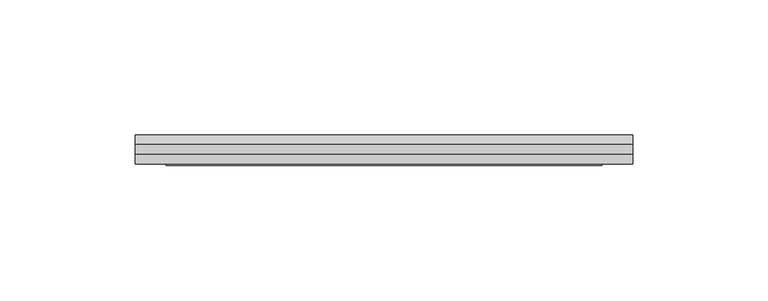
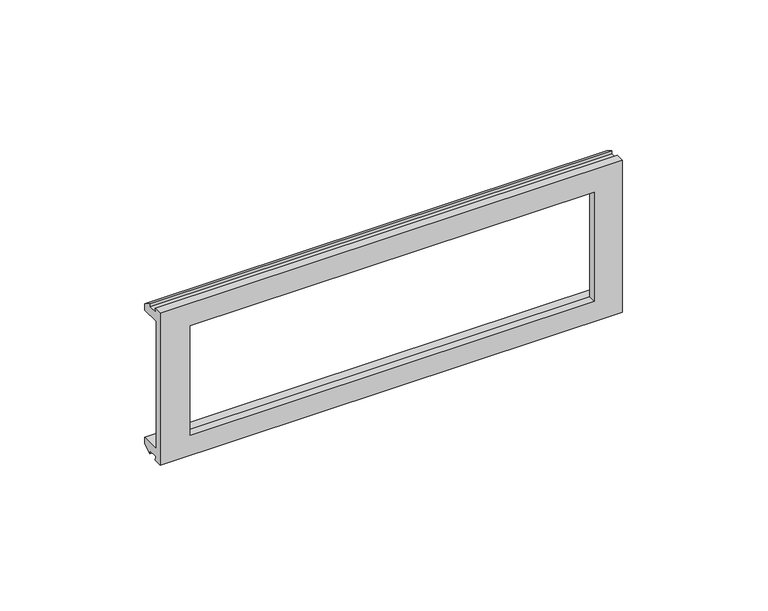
"""IFC4 building model written with IfcOpenShell, lengths in millimetres: proxy geometry."""

from ifc_helpers import new_model, si_unit, frame, origin, place, context, project, spatial, polyline, circle_curve, source, transform, mapped, element, save
from ifc_brep_helpers import plane_surface, cylinder_surface, revolved_surface, advanced_brep


def electrical_fixtures_77dadccb(model_context):
    return source(origin(), model_context, "Body", "AdvancedBrep", [
        advanced_brep(
        [(92.0, -3.5, 32.0), (92.0, -3.5, -32.0), (92.0, 0.0, -32.0), (92.0, -0.1920215, -30.3542211), (92.0, 3.8395952, -30.3542211), (92.0, 3.8395952, -31.5769261), (92.0, 7.1871999, -29.457495), (92.0, 7.1871999, -26.8043792), (92.0, -0.5712834, -26.8043792), (92.0, -0.5712834, 26.8043792), (92.0, 7.1871999, 26.8043792), (92.0, 7.1871999, 29.457495), (92.0, 3.8395952, 31.5769261), (92.0, 3.8395952, 30.3542211), (92.0, -0.1920215, 30.3542211), (92.0, 0.0, 32.0), (-92.0, -3.5, 32.0), (-92.0, 0.0, 32.0), (-92.0, -0.1920215, 30.3542211), (-92.0, 3.8395952, 30.3542211), (-92.0, 3.8395952, 31.5769261), (-92.0, 7.1871999, 29.457495), (-92.0, 7.1871999, 26.8043792), (-92.0, -0.5712834, 26.8043792), (-92.0, -0.5712834, -26.8043792), (-92.0, 7.1871999, -26.8043792), (-92.0, 7.1871999, -29.457495), (-92.0, 3.8395952, -31.5769261), (-92.0, 3.8395952, -30.3542211), (-92.0, -0.1920215, -30.3542211), (-92.0, 0.0, -32.0), (-92.0, -3.5, -32.0), (80.5, -4.1351573, 23.0), (80.5, -4.1351573, -23.0), (-80.5, -4.1351573, -23.0), (-80.5, -4.1351573, 23.0), (80.5, -0.9249591, -23.0), (80.5, -0.9249591, 23.0), (-80.5, -0.9249591, 23.0), (-80.5, -0.9249591, -23.0)],
        [
            (0, 1, circle_curve(frame((92.0, 385.8496712, 0.0), z_axis=(1.0, 0.0, 0.0), x_axis=(0.0, 1.0, 0.0)), 390.6624713)),
            (1, 2),
            (2, 3, circle_curve(frame((92.0, 267.1169132, 0.0), z_axis=(-1.0, 0.0, 0.0), x_axis=(0.0, 1.0, 0.0)), 269.0268487)),
            (3, 4),
            (4, 5),
            (5, 6),
            (6, 7),
            (7, 8),
            (8, 9, circle_curve(frame((92.0, 267.1169132, 0.0), z_axis=(-1.0, 0.0, 0.0), x_axis=(0.0, 1.0, 0.0)), 269.0268487)),
            (9, 10),
            (10, 11),
            (11, 12),
            (12, 13),
            (13, 14),
            (14, 15, circle_curve(frame((92.0, 267.1169132, 0.0), z_axis=(-1.0, 0.0, 0.0), x_axis=(0.0, 1.0, 0.0)), 269.0268487)),
            (15, 0),
            (16, 17),
            (17, 18, circle_curve(frame((-92.0, 267.1169132, 0.0), z_axis=(1.0, 0.0, 0.0), x_axis=(0.0, 1.0, 0.0)), 269.0268487)),
            (18, 19),
            (19, 20),
            (20, 21),
            (21, 22),
            (22, 23),
            (23, 24, circle_curve(frame((-92.0, 267.1169132, 0.0), z_axis=(1.0, 0.0, 0.0), x_axis=(0.0, 1.0, 0.0)), 269.0268487)),
            (24, 25),
            (25, 26),
            (26, 27),
            (27, 28),
            (28, 29),
            (29, 30, circle_curve(frame((-92.0, 267.1169132, 0.0), z_axis=(1.0, 0.0, 0.0), x_axis=(0.0, 1.0, 0.0)), 269.0268487)),
            (30, 31),
            (31, 16, circle_curve(frame((-92.0, 385.8496712, 0.0), z_axis=(-1.0, 0.0, 0.0), x_axis=(0.0, 1.0, 0.0)), 390.6624713)),
            (0, 16),
            (31, 1),
            (32, 33, circle_curve(frame((80.5, 385.8496712, 0.0), z_axis=(1.0, 0.0, 0.0), x_axis=(0.0, 1.0, 0.0)), 390.6624713)),
            (33, 34),
            (34, 35, circle_curve(frame((-80.5, 385.8496712, 0.0), z_axis=(-1.0, 0.0, 0.0), x_axis=(0.0, 1.0, 0.0)), 390.6624713)),
            (35, 32),
            (30, 2),
            (29, 3),
            (15, 17),
            (36, 33),
            (32, 37),
            (37, 36, circle_curve(frame((80.5, 267.1169132, 0.0), z_axis=(1.0, 0.0, 0.0), x_axis=(0.0, 1.0, 0.0)), 269.0268487)),
            (35, 38),
            (38, 37),
            (34, 39),
            (39, 38, circle_curve(frame((-80.5, 267.1169132, 0.0), z_axis=(-1.0, 0.0, 0.0), x_axis=(0.0, 1.0, 0.0)), 269.0268487)),
            (36, 39),
            (28, 4),
            (27, 5),
            (26, 6),
            (25, 7),
            (24, 8),
            (23, 9),
            (22, 10),
            (21, 11),
            (20, 12),
            (19, 13),
            (18, 14),
        ],
        [
            plane_surface(frame((92.0, 776.5121425, 0.0), z_axis=(1.0, 0.0, 0.0), x_axis=(0.0, 0.0, 1.0))),
            plane_surface(frame((-92.0, 776.5121425, 0.0), z_axis=(-1.0, 0.0, 0.0), x_axis=(0.0, 0.0, -1.0))),
            cylinder_surface(frame((-92.0, 385.8496712, 0.0), z_axis=(1.0, 0.0, 0.0), x_axis=(0.0, 1.0, 0.0)), 390.6624713),
            plane_surface(frame((92.0, -3.5, -32.0), z_axis=(0.0, 0.0, -1.0), x_axis=(-1.0, 0.0, 0.0))),
            revolved_surface(polyline([(-92.0, 536.1437619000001, 0.0), (92.0, 536.1437619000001, 0.0)]), (-92.0, 267.1169132, 0.0), (-1.0, 0.0, 0.0)),
            plane_surface(frame((92.0, 0.0, 32.0), z_axis=(0.0, 0.0, 1.0), x_axis=(-1.0, 0.0, 0.0))),
            plane_surface(frame((80.5, -5.8409784, -23.0), z_axis=(-1.0, 0.0, 0.0), x_axis=(0.0, 1.0, 0.0))),
            plane_surface(frame((80.5, -5.8409784, 23.0), z_axis=(0.0, 0.0, -1.0), x_axis=(0.0, 1.0, 0.0))),
            plane_surface(frame((-80.5, -5.8409784, 23.0), z_axis=(1.0, 0.0, 0.0), x_axis=(0.0, 1.0, 0.0))),
            plane_surface(frame((-80.5, -5.8409784, -23.0), z_axis=(0.0, 0.0, 1.0), x_axis=(0.0, 1.0, 0.0))),
            plane_surface(frame((92.0, -0.1920215, -30.3542211), z_axis=(0.0, 0.0, -1.0), x_axis=(-1.0, 0.0, 0.0))),
            plane_surface(frame((92.0, 3.8395952, -30.3542211), z_axis=(0.0, -1.0, 0.0), x_axis=(-1.0, 0.0, 0.0))),
            plane_surface(frame((92.0, 3.8395952, -31.5769261), z_axis=(0.0, 0.5349226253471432, -0.8449010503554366), x_axis=(-1.0, 0.0, 0.0))),
            plane_surface(frame((92.0, 7.1871999, -29.457495), z_axis=(0.0, 1.0, 0.0), x_axis=(-1.0, 0.0, 0.0))),
            plane_surface(frame((92.0, 7.1871999, -26.8043792), z_axis=(0.0, 0.0, 1.0), x_axis=(-1.0, 0.0, 0.0))),
            plane_surface(frame((92.0, -0.5712834, 26.8043792), z_axis=(0.0, 0.0, -1.0), x_axis=(-1.0, 0.0, 0.0))),
            plane_surface(frame((92.0, 7.1871999, 26.8043792), z_axis=(0.0, 1.0, 0.0), x_axis=(-1.0, 0.0, 0.0))),
            plane_surface(frame((92.0, 7.1871999, 29.457495), z_axis=(0.0, 0.5349226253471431, 0.8449010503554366), x_axis=(-1.0, 0.0, 0.0))),
            plane_surface(frame((92.0, 3.8395952, 31.5769261), z_axis=(0.0, -1.0, 0.0), x_axis=(-1.0, 0.0, 0.0))),
            plane_surface(frame((92.0, 3.8395952, 30.3542211), z_axis=(0.0, 0.0, 1.0), x_axis=(-1.0, 0.0, 0.0))),
        ],
        [
            (0, [[1, 2, 3, 4, 5, 6, 7, 8, 9, 10, 11, 12, 13, 14, 15, 16]]),
            (1, [[17, 18, 19, 20, 21, 22, 23, 24, 25, 26, 27, 28, 29, 30, 31, 32]]),
            (2, [[-1, 33, -32, 34], [35, 36, 37, 38]]),
            (3, [[-2, -34, -31, 39]]),
            (4, [[-3, -39, -30, 40]]),
            (5, [[-16, 41, -17, -33]]),
            (6, [[42, -35, 43, 44]]),
            (7, [[-43, -38, 45, 46]]),
            (8, [[-45, -37, 47, 48]]),
            (9, [[-42, 49, -47, -36]]),
            (10, [[-4, -40, -29, 50]]),
            (11, [[-5, -50, -28, 51]]),
            (12, [[-6, -51, -27, 52]]),
            (13, [[-7, -52, -26, 53]]),
            (14, [[-8, -53, -25, 54]]),
            (4, [[-9, -54, -24, 55], [-44, -46, -48, -49]]),
            (15, [[-10, -55, -23, 56]]),
            (16, [[-11, -56, -22, 57]]),
            (17, [[-12, -57, -21, 58]]),
            (18, [[-13, -58, -20, 59]]),
            (19, [[-14, -59, -19, 60]]),
            (4, [[-15, -60, -18, -41]]),
        ],
    ),
    ])


if __name__ == "__main__":
    model = new_model("IFC4")
    model_context = context("Model", 3, world=origin())
    ifc_project = project(units=[si_unit("LENGTHUNIT", "METRE", prefix="MILLI")], contexts=[model_context])
    site = spatial("IfcSite", under=ifc_project)
    building = spatial("IfcBuilding", under=site)
    placement = place(None, origin())
    electrical_fixtures_shape = electrical_fixtures_77dadccb(model_context)
    element("IfcBuildingElementProxy", 1, Name="Electrical Fixtures", at=placement, inside=building, context=model_context, shape_type="MappedRepresentation", body=[
        mapped(electrical_fixtures_shape, transform((0.0, 0.0, 0.0), x_axis=(1.0, 0.0, 0.0), y_axis=(0.0, 1.0, 0.0), z_axis=(0.0, 0.0, 1.0))),
    ])
    save(model, "model.ifc")
